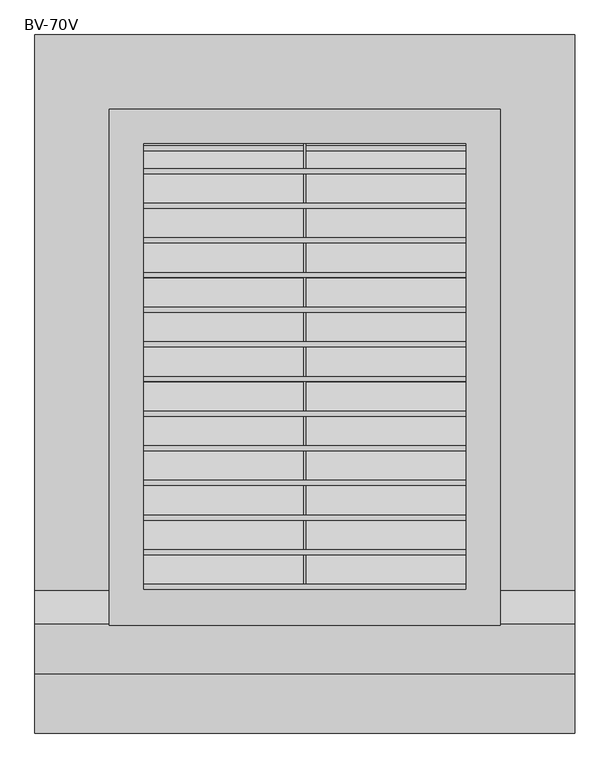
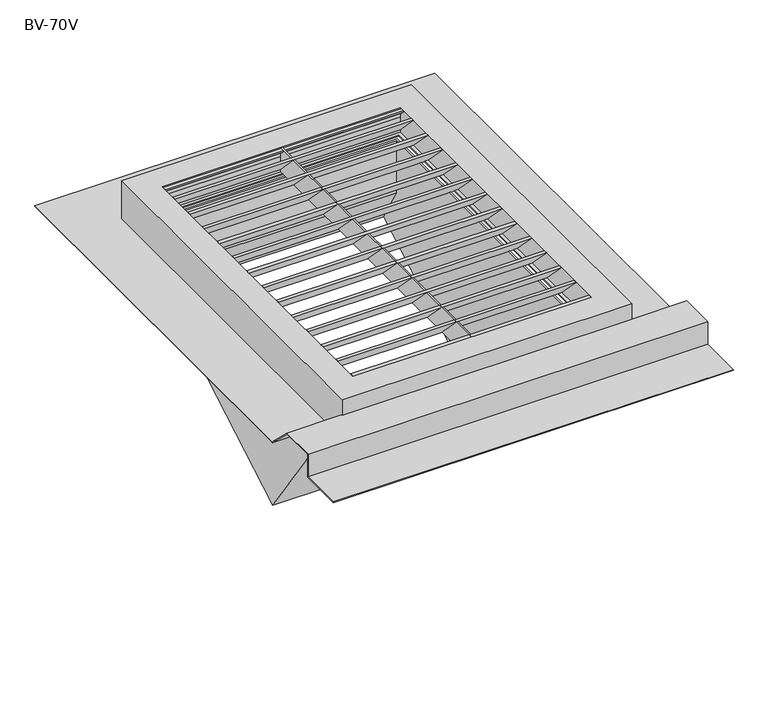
"""IFC4 building model written with IfcOpenShell, lengths in millimetres: air terminal geometry, AIR_FB_Roof cowl BV-70V_SMA : BV-70V."""

from ifc_helpers import new_model, si_unit, frame, origin, place, context, project, spatial, polyline, outline, extrude, faceted_brep, source, transform, mapped, element, save


def bv_70v_7faa3e46(model_context):
    return source(origin(), model_context, "Body", "SolidModel", [
        extrude(outline(polyline([(330.0694981, 113.0), (330.0694981, 111.6939238), (322.3735338, 111.6939238), (389.9430991, 42.2), (398.800293, 42.2), (398.800293, 44.4930749), (395.903107, 47.3902609), (396.7462329, 48.2333867), (399.9828093, 44.9968103), (399.9828093, 41.0), (390.0, 41.0), (320.0694981, 113.0), (330.0694981, 113.0)])), frame((-325.0, 0.0, 0.0), z_axis=(1.0, 0.0, 0.0), x_axis=(0.0, 1.0, 0.0)), (0.0, 0.0, 1.0), 650.0),
        extrude(outline(polyline([(260.0694981, 113.0), (260.0694981, 111.6939238), (252.3735338, 111.6939238), (319.9430991, 42.2), (328.800293, 42.2), (328.800293, 44.4930749), (325.903107, 47.3902609), (326.7462329, 48.2333867), (329.9828093, 44.9968103), (329.9828093, 41.0), (320.0, 41.0), (250.0694981, 113.0), (260.0694981, 113.0)])), frame((-325.0, 0.0, 0.0), z_axis=(1.0, 0.0, 0.0), x_axis=(0.0, 1.0, 0.0)), (0.0, 0.0, 1.0), 650.0),
        extrude(outline(polyline([(190.0694981, 113.0), (190.0694981, 111.6939238), (182.3735338, 111.6939238), (249.9430991, 42.2), (258.800293, 42.2), (258.800293, 44.4930749), (255.903107, 47.3902609), (256.7462329, 48.2333867), (259.9828093, 44.9968103), (259.9828093, 41.0), (250.0, 41.0), (180.0694981, 113.0), (190.0694981, 113.0)])), frame((-325.0, 0.0, 0.0), z_axis=(1.0, 0.0, 0.0), x_axis=(0.0, 1.0, 0.0)), (0.0, 0.0, 1.0), 650.0),
        extrude(outline(polyline([(120.0694981, 113.0), (120.0694981, 111.6939238), (112.3735338, 111.6939238), (179.9430991, 42.2), (188.800293, 42.2), (188.800293, 44.4930749), (185.903107, 47.3902609), (186.7462329, 48.2333867), (189.9828093, 44.9968103), (189.9828093, 41.0), (180.0, 41.0), (110.0694981, 113.0), (120.0694981, 113.0)])), frame((-325.0, 0.0, 0.0), z_axis=(1.0, 0.0, 0.0), x_axis=(0.0, 1.0, 0.0)), (0.0, 0.0, 1.0), 650.0),
        extrude(outline(polyline([(50.0694981, 113.0), (50.0694981, 111.6939238), (42.3735338, 111.6939238), (109.9430991, 42.2), (118.800293, 42.2), (118.800293, 44.4930749), (115.903107, 47.3902609), (116.7462329, 48.2333867), (119.9828093, 44.9968103), (119.9828093, 41.0), (110.0, 41.0), (40.0694981, 113.0), (50.0694981, 113.0)])), frame((-325.0, 0.0, 0.0), z_axis=(1.0, 0.0, 0.0), x_axis=(0.0, 1.0, 0.0)), (0.0, 0.0, 1.0), 650.0),
        extrude(outline(polyline([(-19.9305019, 113.0), (-19.9305019, 111.6939238), (-27.6264662, 111.6939238), (39.9430991, 42.2), (48.800293, 42.2), (48.800293, 44.4930749), (45.903107, 47.3902609), (46.7462329, 48.2333867), (49.9828093, 44.9968103), (49.9828093, 41.0), (40.0, 41.0), (-29.9305019, 113.0), (-19.9305019, 113.0)])), frame((-325.0, 0.0, 0.0), z_axis=(1.0, 0.0, 0.0), x_axis=(0.0, 1.0, 0.0)), (0.0, 0.0, 1.0), 650.0),
        extrude(outline(polyline([(-89.9305019, 113.0), (-89.9305019, 111.6939238), (-97.6264662, 111.6939238), (-30.0569009, 42.2), (-21.199707, 42.2), (-21.199707, 44.4930749), (-24.096893, 47.3902609), (-23.2537671, 48.2333867), (-20.0171907, 44.9968103), (-20.0171907, 41.0), (-30.0, 41.0), (-99.9305019, 113.0), (-89.9305019, 113.0)])), frame((-325.0, 0.0, 0.0), z_axis=(1.0, 0.0, 0.0), x_axis=(0.0, 1.0, 0.0)), (0.0, 0.0, 1.0), 650.0),
        extrude(outline(polyline([(-159.9305019, 113.0), (-159.9305019, 111.6939238), (-167.6264662, 111.6939238), (-100.0569009, 42.2), (-91.199707, 42.2), (-91.199707, 44.4930749), (-94.096893, 47.3902609), (-93.2537671, 48.2333867), (-90.0171907, 44.9968103), (-90.0171907, 41.0), (-100.0, 41.0), (-169.9305019, 113.0), (-159.9305019, 113.0)])), frame((-325.0, 0.0, 0.0), z_axis=(1.0, 0.0, 0.0), x_axis=(0.0, 1.0, 0.0)), (0.0, 0.0, 1.0), 650.0),
        extrude(outline(polyline([(-229.9305019, 113.0), (-229.9305019, 111.6939238), (-237.6264662, 111.6939238), (-170.0569009, 42.2), (-161.199707, 42.2), (-161.199707, 44.4930749), (-164.096893, 47.3902609), (-163.2537671, 48.2333867), (-160.0171907, 44.9968103), (-160.0171907, 41.0), (-170.0, 41.0), (-239.9305019, 113.0), (-229.9305019, 113.0)])), frame((-325.0, 0.0, 0.0), z_axis=(1.0, 0.0, 0.0), x_axis=(0.0, 1.0, 0.0)), (0.0, 0.0, 1.0), 650.0),
        extrude(outline(polyline([(-299.9305019, 113.0), (-299.9305019, 111.6939238), (-307.6264662, 111.6939238), (-240.0569009, 42.2), (-231.199707, 42.2), (-231.199707, 44.4930749), (-234.096893, 47.3902609), (-233.2537671, 48.2333867), (-230.0171907, 44.9968103), (-230.0171907, 41.0), (-240.0, 41.0), (-309.9305019, 113.0), (-299.9305019, 113.0)])), frame((-325.0, 0.0, 0.0), z_axis=(1.0, 0.0, 0.0), x_axis=(0.0, 1.0, 0.0)), (0.0, 0.0, 1.0), 650.0),
        extrude(outline(polyline([(-369.9305019, 113.0), (-369.9305019, 111.6939238), (-377.6264662, 111.6939238), (-310.0569009, 42.2), (-301.199707, 42.2), (-301.199707, 44.4930749), (-304.096893, 47.3902609), (-303.2537671, 48.2333867), (-300.0171907, 44.9968103), (-300.0171907, 41.0), (-310.0, 41.0), (-379.9305019, 113.0), (-369.9305019, 113.0)])), frame((-325.0, 0.0, 0.0), z_axis=(1.0, 0.0, 0.0), x_axis=(0.0, 1.0, 0.0)), (0.0, 0.0, 1.0), 650.0),
        extrude(outline(polyline([(400.0694981, 113.0), (400.0694981, 111.6939238), (392.3735338, 111.6939238), (450.0, 51.1396011), (450.0, 50.0), (390.0694981, 113.0), (400.0694981, 113.0)])), frame((-325.0, 0.0, 0.0), z_axis=(1.0, 0.0, 0.0), x_axis=(0.0, 1.0, 0.0)), (0.0, 0.0, 1.0), 650.0),
        extrude(outline(polyline([(-439.9305019, 113.0), (-439.9305019, 111.6939238), (-447.6264662, 111.6939238), (-380.0569009, 42.2), (-371.199707, 42.2), (-371.199707, 44.4930749), (-374.096893, 47.3902609), (-373.2537671, 48.2333867), (-370.0171907, 44.9968103), (-370.0171907, 41.0), (-380.0, 41.0), (-449.9305019, 113.0), (-439.9305019, 113.0)])), frame((-325.0, 0.0, 0.0), z_axis=(1.0, 0.0, 0.0), x_axis=(0.0, 1.0, 0.0)), (0.0, 0.0, 1.0), 650.0),
        faceted_brep([(315.0, 440.0, 43.0), (315.0, 440.0, 41.0), (315.0, -440.0, 41.0), (315.0, -440.0, 43.0), (325.0, 450.0, 113.0), (325.0, 450.0, 43.0), (325.0, -450.0, 43.0), (325.0, -450.0, 113.0), (327.000122, 452.000122, 41.0), (327.000122, 452.000122, 111.0), (327.000122, -452.000122, 111.0), (327.000122, -452.000122, 41.0), (-315.0, -440.0, 41.0), (-315.0, -440.0, 43.0), (-325.0, -450.0, 43.0), (-325.0, -450.0, 113.0), (-327.000122, -452.000122, 111.0), (-327.000122, -452.000122, 41.0), (-315.0, 440.0, 41.0), (-315.0, 440.0, 43.0), (-325.0, 450.0, 43.0), (-325.0, 450.0, 113.0), (-327.000122, 452.000122, 111.0), (-327.000122, 452.000122, 41.0), (-393.0, -520.0, 111.0), (-393.0, 518.0, 111.0), (393.0, 518.0, 111.0), (393.0, -520.0, 111.0), (-395.0, 520.0, 2.0), (395.0, 520.0, 2.0), (395.0, -452.0588235, 2.0), (545.0, -452.0588235, 2.0), (545.0, 670.0, 2.0), (-545.0, 670.0, 2.0), (-545.0, -452.0588235, 2.0), (-395.0, -452.0588235, 2.0), (-545.0, 670.0, 0.0), (-545.0, -450.0, 0.0), (-545.0, -451.3935714, -1.4345588), (-545.0, -520.8114995, 66.0), (-545.0, -618.0, 66.0), (-545.0, -618.0, 1.0), (-545.0, -740.0, 1.0), (-545.0, -740.0, 3.0), (-545.0, -620.0, 3.0), (-545.0, -620.0, 68.0), (-545.0, -520.0, 68.0), (545.0, 670.0, 0.0), (545.0, -450.0, 0.0), (393.0, -450.0, 0.0), (393.0, 518.0, 0.0), (-393.0, 518.0, 0.0), (-393.0, -450.0, 0.0), (-393.0, -520.0, 68.0), (395.0, 520.0, 113.0), (-395.0, 520.0, 113.0), (-395.0, -522.000122, 113.0), (395.0, -522.000122, 113.0), (-395.0, -520.0, 68.0), (-395.0, -522.000122, 68.0), (545.0, -520.0, 68.0), (545.0, -620.0, 68.0), (545.0, -620.0, 3.0), (545.0, -740.0, 3.0), (545.0, -740.0, 1.0), (545.0, -618.0, 1.0), (545.0, -618.0, 66.0), (545.0, -520.8114995, 66.0), (545.0, -451.3935714, -1.4345588), (393.0, -520.0, 68.0), (395.0, -522.000122, 68.0), (395.0, -520.0, 68.0)], [[[0, 1, 2, 3]], [[4, 5, 6, 7]], [[8, 9, 10, 11]], [[3, 2, 12, 13]], [[7, 6, 14, 15]], [[11, 10, 16, 17]], [[13, 12, 18, 19]], [[15, 14, 20, 21]], [[17, 16, 22, 23]], [[8, 11, 17, 23], [2, 1, 18, 12]], [[1, 0, 19, 18]], [[6, 5, 20, 14], [0, 3, 13, 19]], [[5, 4, 21, 20]], [[24, 25, 26, 27], [10, 9, 22, 16]], [[9, 8, 23, 22]], [[28, 29, 30, 31, 32, 33, 34, 35]], [[33, 36, 37, 38, 39, 40, 41, 42, 43, 44, 45, 46, 34]], [[36, 47, 48, 49, 50, 51, 52, 37]], [[52, 51, 25, 24, 53]], [[54, 55, 56, 57], [4, 7, 15, 21]], [[56, 55, 28, 35, 58, 59]], [[33, 32, 47, 36]], [[51, 50, 26, 25]], [[54, 29, 28, 55]], [[47, 32, 31, 60, 61, 62, 63, 64, 65, 66, 67, 68, 48]], [[50, 49, 69, 27, 26]], [[54, 57, 70, 71, 30, 29]], [[63, 43, 42, 64]], [[43, 63, 62, 44]], [[64, 42, 41, 65]], [[44, 62, 61, 45]], [[41, 40, 66, 65]], [[46, 45, 61, 60, 71, 70, 59, 58]], [[40, 39, 67, 66]], [[38, 37, 52, 49, 48, 68]], [[71, 60, 31, 30]], [[46, 58, 35, 34]], [[49, 52, 53, 69]], [[39, 38, 68, 67]], [[56, 59, 70, 57]], [[53, 24, 27, 69]]]),
        faceted_brep([(305.0, -38.4566823, -515.9230485), (305.0, 489.8188141, -210.9230485), (305.0, 429.8188141, -107.0), (305.0, 429.8188141, 43.0), (305.0, -429.8188141, 43.0), (-305.0, -38.4566823, -515.9230485), (-305.0, -429.8188141, 43.0), (-305.0, 429.8188141, 43.0), (-305.0, 429.8188141, -107.0), (-305.0, 489.8188141, -210.9230485), (300.0, -34.6948108, -513.7511309), (300.0, 485.8568157, -213.2105093), (-300.0, 485.8568157, -213.2105093), (-300.0, -34.6948108, -513.7511309), (300.0, 424.5361496, 43.0), (300.0, -424.5361496, 43.0), (-300.0, -424.5361496, 43.0), (-300.0, 424.5361496, 43.0), (300.0, 424.5361496, -107.0), (-300.0, 424.5361496, -107.0)], [[[0, 1, 2, 3, 4]], [[5, 6, 7, 8, 9]], [[1, 0, 5, 9], [10, 11, 12, 13]], [[2, 1, 9, 8]], [[3, 2, 8, 7]], [[4, 3, 7, 6], [14, 15, 16, 17]], [[0, 4, 6, 5]], [[14, 18, 11, 10, 15]], [[19, 17, 16, 13, 12]], [[18, 14, 17, 19]], [[15, 10, 13, 16]], [[18, 19, 12, 11]]]),
        extrude(outline(polyline([(2.0, 450.0), (2.0, -450.0), (-2.0, -450.0), (-2.0, 450.0), (2.0, 450.0)])), frame((0.0, 0.0, 43.0), z_axis=(0.0, 0.0, 1.0), x_axis=(1.0, 0.0, 0.0)), (0.0, 0.0, 1.0), 70.0),
        extrude(outline(polyline([(446.070888, 113.0), (450.0, 109.070888), (450.0, 88.0), (449.0, 88.0), (449.0, 108.452311), (445.57333, 111.800048), (437.270717, 111.800048), (437.270717, 109.49707), (440.44955, 106.318115), (439.600795, 105.470215), (436.070766, 108.999511), (436.070766, 113.0), (446.070888, 113.0)])), frame((-325.0, 0.0, 0.0), z_axis=(1.0, 0.0, 0.0), x_axis=(0.0, 1.0, 0.0)), (0.0, 0.0, 1.0), 650.0),
    ])


if __name__ == "__main__":
    model = new_model("IFC4")
    model_context = context("Model", 3, world=origin())
    ifc_project = project(units=[si_unit("LENGTHUNIT", "METRE", prefix="MILLI")], contexts=[model_context])
    site = spatial("IfcSite", under=ifc_project)
    building = spatial("IfcBuilding", under=site)
    placement = place(None, origin())
    bv_70v_shape = bv_70v_7faa3e46(model_context)
    element("IfcAirTerminal", 1, ObjectType="AIR_FB_Roof cowl BV-70V_SMA : BV-70V", at=placement, inside=building, context=model_context, shape_type="MappedRepresentation", body=[
        mapped(bv_70v_shape, transform((0.0, 0.0, 0.0), x_axis=(1.0, 0.0, 0.0), y_axis=(0.0, 1.0, 0.0), z_axis=(0.0, 0.0, 1.0))),
    ])
    save(model, "model.ifc")
